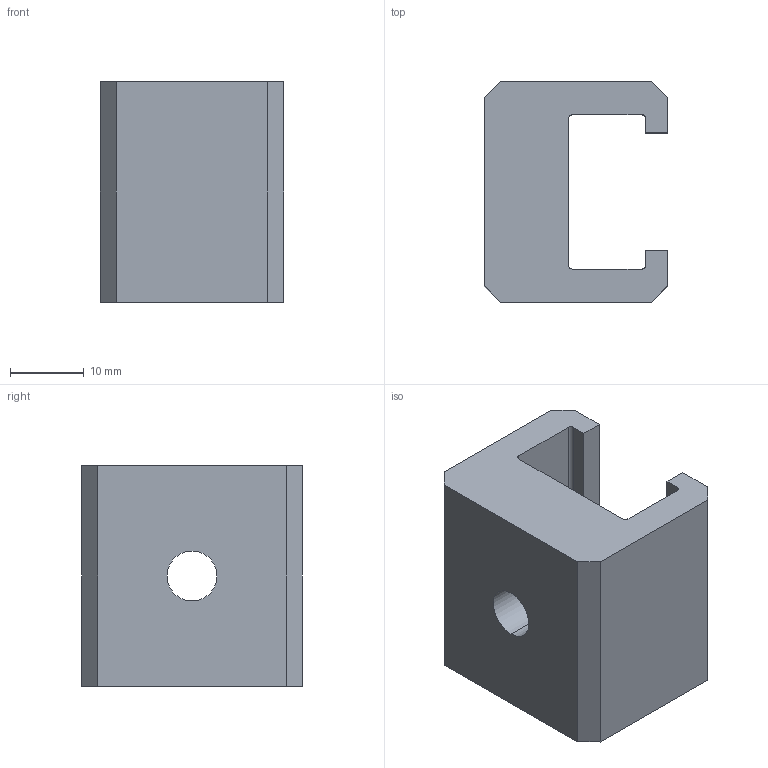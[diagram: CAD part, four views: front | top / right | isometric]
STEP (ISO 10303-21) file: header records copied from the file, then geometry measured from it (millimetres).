
FILE_DESCRIPTION (( 'STEP AP214' ), '1' );
FILE_NAME ('EL 30.step', '2017-04-05T07:36:14', ( '' ), ( '' ), 'SwSTEP 2.0', 'SolidWorks 2015', '' );
FILE_SCHEMA (( 'AUTOMOTIVE_DESIGN' ));
Length unit declared in the file: millimetre
Products named in the file (1): EL 30
Bounding box: 25 x 30 x 30 mm (x, y, z)
Volume: 13743.4 mm3; surface area: 5346.7 mm2
Topology: 1 solids, 1 shells, 24 faces, 66 edges, 44 vertices
Faces by surface type: plane 18, cylinder 6
Entity records: 822 total; most frequent: CARTESIAN_POINT 135, ORIENTED_EDGE 132, DIRECTION 128, EDGE_CURVE 66, LINE 54, VECTOR 54, VERTEX_POINT 44, AXIS2_PLACEMENT_3D 37
